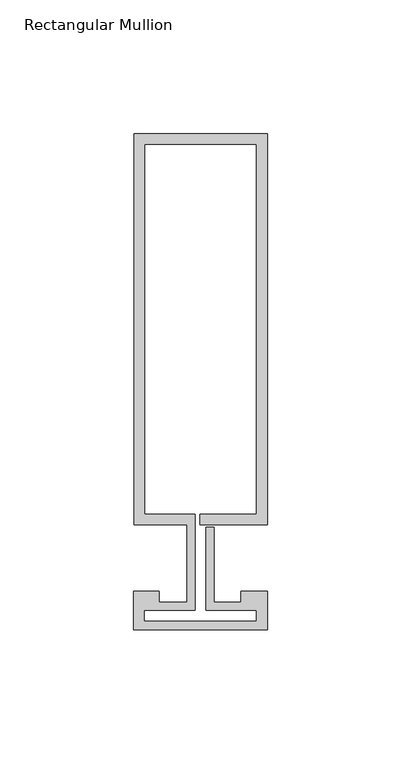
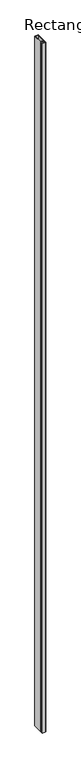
"""IFC4 building model written with IfcOpenShell, lengths in millimetres: member geometry, Rectangular Mullion : Reynaers_CW-50_Mullion-Transom_Vertical_146.5mm_Facecap-02A."""

from ifc_helpers import new_model, si_unit, frame, origin, place, context, project, spatial, polyline, outline, extrude, source, transform, mapped, element, save


def rectangular_mullion_3e00aa90(model_context):
    return source(origin(), model_context, "Body", "SweptSolid", [
        extrude(outline(polyline([(-24.8004059, 159.0), (25.1995941, 159.0), (25.1995941, 12.5), (0.0, 12.5), (0.0, 16.5), (21.1995941, 16.5), (21.1995941, 155.0), (-20.8004059, 155.0), (-20.8004059, 16.5), (-1.9004059, 16.5), (-1.9004059, -19.5), (-20.994845, -19.5), (-20.994845, -23.7191338), (21.1995941, -23.7191338), (21.1995941, -19.5), (2.2995941, -19.5), (2.2995941, 11.5), (5.2995941, 11.5), (5.2995941, -16.5), (15.2996495, -16.5), (15.2996495, -12.5), (25.1995941, -12.5), (25.1995941, -26.8), (-24.994845, -26.8), (-24.994845, -12.5), (-15.2996495, -12.5), (-15.2996495, -16.5), (-4.9004059, -16.5), (-4.9004059, 12.5), (-24.8004059, 12.5), (-24.8004059, 159.0)])), frame((0.0, 0.0, -10400.0), z_axis=(0.0, 0.0, 1.0), x_axis=(1.0, 0.0, 0.0)), (0.0, 0.0, 1.0), 10400.0),
    ])


if __name__ == "__main__":
    model = new_model("IFC4")
    model_context = context("Model", 3, world=origin())
    ifc_project = project(units=[si_unit("LENGTHUNIT", "METRE", prefix="MILLI")], contexts=[model_context])
    site = spatial("IfcSite", under=ifc_project)
    building = spatial("IfcBuilding", under=site)
    placement = place(None, origin())
    rectangular_mullion_shape = rectangular_mullion_3e00aa90(model_context)
    element("IfcMember", 1, ObjectType="Rectangular Mullion : Reynaers_CW-50_Mullion-Transom_Vertical_146.5mm_Facecap-02A", at=placement, inside=building, context=model_context, shape_type="MappedRepresentation", body=[
        mapped(rectangular_mullion_shape, transform((0.0, 0.0, 0.0), x_axis=(1.0, 0.0, 0.0), y_axis=(0.0, 1.0, 0.0), z_axis=(0.0, 0.0, 1.0))),
    ])
    save(model, "model.ifc")
